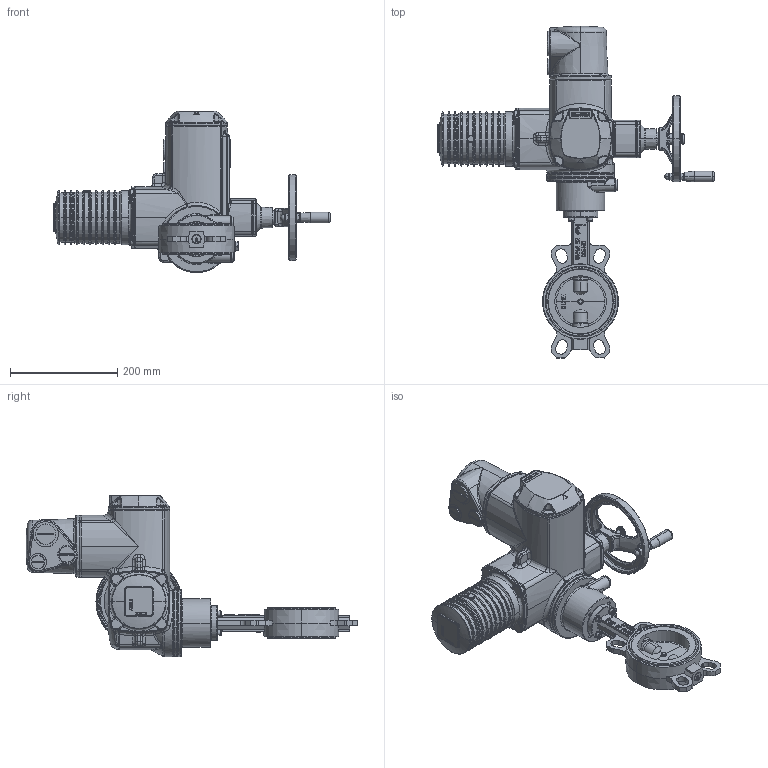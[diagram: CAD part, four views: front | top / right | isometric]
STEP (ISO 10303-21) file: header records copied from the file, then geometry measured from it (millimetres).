
FILE_DESCRIPTION (( 'STEP AP203' ), '1' );
FILE_NAME ('VPI-U04 DN100.step', '2016-09-29T16:10:43', ( 'TECOFI' ), ( '' ), 'SwSTEP 2.0', 'SolidWorks 2014', '' );
FILE_SCHEMA (( 'CONFIG_CONTROL_DESIGN' ));
Length unit declared in the file: millimetre
Products named in the file (1): VPI-U04 DN100
Bounding box: 514.2 x 617.5 x 300.3 mm (x, y, z)
Volume: 8504768.2 mm3; surface area: 674070.1 mm2
Topology: 37 solids, 37 shells, 3531 faces, 8531 edges, 5111 vertices
Faces by surface type: bspline 1160, plane 1012, cylinder 636, torus 331, cone 312, sphere 80
Entity records: 195552 total; most frequent: CARTESIAN_POINT 121712, ORIENTED_EDGE 16830, DIRECTION 13084, EDGE_CURVE 8415, VERTEX_POINT 5107, AXIS2_PLACEMENT_3D 4862, EDGE_LOOP 3710, ADVANCED_FACE 3531
